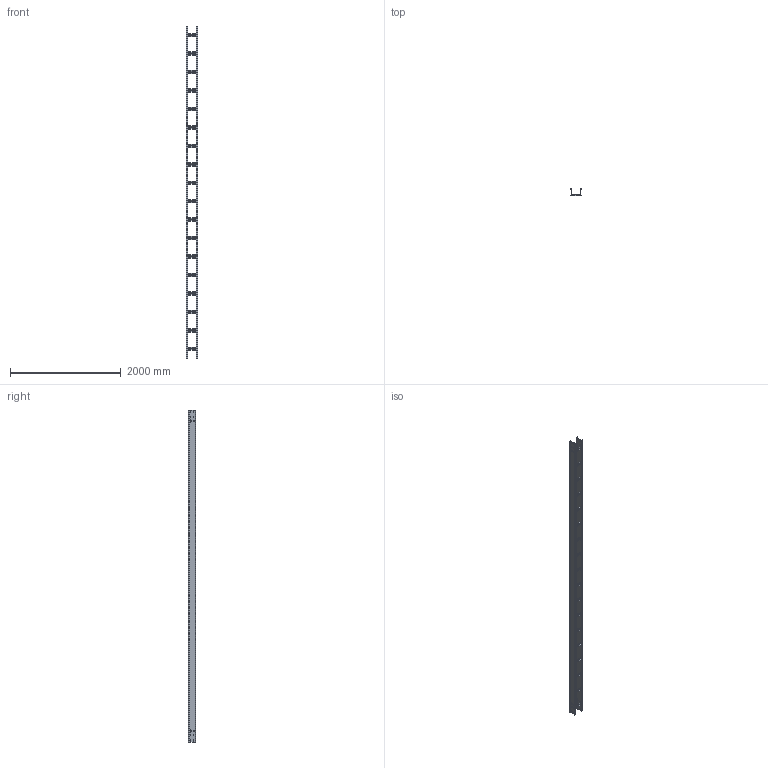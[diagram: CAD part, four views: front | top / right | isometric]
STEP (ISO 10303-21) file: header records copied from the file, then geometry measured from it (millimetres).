
FILE_DESCRIPTION (( 'STEP AP203' ), '1' );
FILE_NAME ('N3 L 150 6m.STEP', '2024-08-29T04:00:13', ( '' ), ( '' ), 'SwSTEP 2.0', 'SolidWorks 2023', '' );
FILE_SCHEMA (( 'CONFIG_CONTROL_DESIGN' ));
Length unit declared in the file: millimetre
Products named in the file (3): Ladder Rails_Nema  3 - 6m; Ladder Rung_Ladder Rung -  150mm; N3 L 150 6m
Assembly tree (20 placements, depth 2):
  N3 L 150 6m
    Ladder Rails_Nema  3 - 6m  x2
    Ladder Rung_Ladder Rung -  150mm  x18
Bounding box: 204 x 131 x 6000 mm (x, y, z)
Volume: 3926602.3 mm3; surface area: 4973066.3 mm2
Topology: 20 solids, 20 shells, 1856 faces, 4692 edges, 2920 vertices
Faces by surface type: plane 1488, cylinder 196, bspline 172
Entity records: 17731 total; most frequent: CARTESIAN_POINT 7403, ORIENTED_EDGE 2132, DIRECTION 1636, EDGE_CURVE 1066, LINE 826, VECTOR 826, VERTEX_POINT 692, EDGE_LOOP 452
